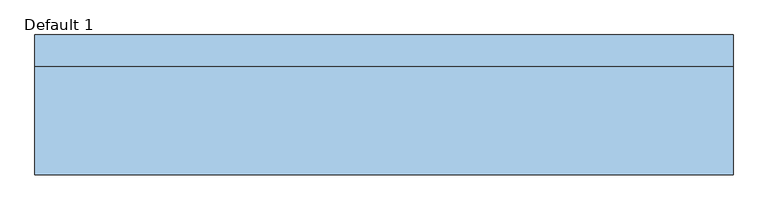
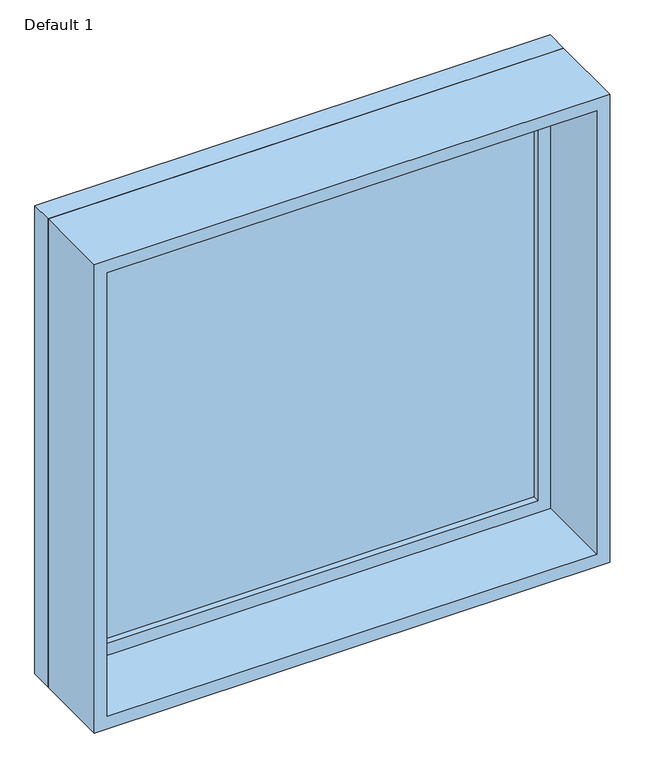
"""IFC4 building model written with IfcOpenShell, lengths in millimetres: window geometry, Planitar-Fixed : Default 1."""

from ifc_helpers import new_model, si_unit, frame, origin, place, context, project, spatial, polyline, outline, extrude, source, transform, mapped, element, save


def default_1_12f2cc98(model_context):
    return source(origin(), model_context, "Body", "SweptSolid", [
        extrude(outline(polyline([(2114.6, -616.0), (933.4, -616.0), (933.4, 616.0), (2114.6, 616.0), (2114.6, -616.0)]), holes=[polyline([(2070.6, -572.0), (2070.6, 572.0), (977.4, 572.0), (977.4, -572.0), (2070.6, -572.0)])]), frame((0.0, 83.3, 0.0), z_axis=(0.0, 1.0, 0.0), x_axis=(0.0, 0.0, 1.0)), (0.0, 0.0, 1.0), 44.0),
        extrude(outline(polyline([(2133.6, -635.0), (914.4, -635.0), (914.4, 635.0), (2133.6, 635.0), (2133.6, -635.0)]), holes=[polyline([(2114.6, -616.0), (2114.6, 616.0), (933.4, 616.0), (933.4, -616.0), (2114.6, -616.0)])]), frame((0.0, 83.3, 0.0), z_axis=(0.0, 1.0, 0.0), x_axis=(0.0, 0.0, 1.0)), (0.0, 0.0, 1.0), 56.7),
        extrude(outline(polyline([(2133.6, -635.0), (914.4, -635.0), (914.4, 635.0), (2133.6, 635.0), (2133.6, -635.0)]), holes=[polyline([(2101.6, -603.0), (2101.6, 603.0), (946.4, 603.0), (946.4, -603.0), (2101.6, -603.0)])]), frame((0.0, -114.0, 0.0), z_axis=(0.0, 1.0, 0.0), x_axis=(0.0, 0.0, 1.0)), (0.0, 0.0, 1.0), 197.3),
        extrude(outline(polyline([(-572.0, 111.3), (572.0, 111.3), (572.0, 99.3), (-572.0, 99.3), (-572.0, 111.3)])), frame((0.0, 0.0, 977.4), z_axis=(0.0, 0.0, 1.0), x_axis=(1.0, 0.0, 0.0)), (0.0, 0.0, 1.0), 1093.2),
    ])


if __name__ == "__main__":
    model = new_model("IFC4")
    model_context = context("Model", 3, world=origin())
    ifc_project = project(units=[si_unit("LENGTHUNIT", "METRE", prefix="MILLI")], contexts=[model_context])
    site = spatial("IfcSite", under=ifc_project)
    building = spatial("IfcBuilding", under=site)
    placement = place(None, origin())
    default_1_shape = default_1_12f2cc98(model_context)
    element("IfcWindow", 1, ObjectType="Planitar-Fixed : Default 1", at=placement, inside=building, context=model_context, shape_type="MappedRepresentation", body=[
        mapped(default_1_shape, transform((0.0, 0.0, 0.0), x_axis=(1.0, 0.0, 0.0), y_axis=(0.0, 1.0, 0.0), z_axis=(0.0, 0.0, 1.0))),
    ])
    save(model, "model.ifc")
